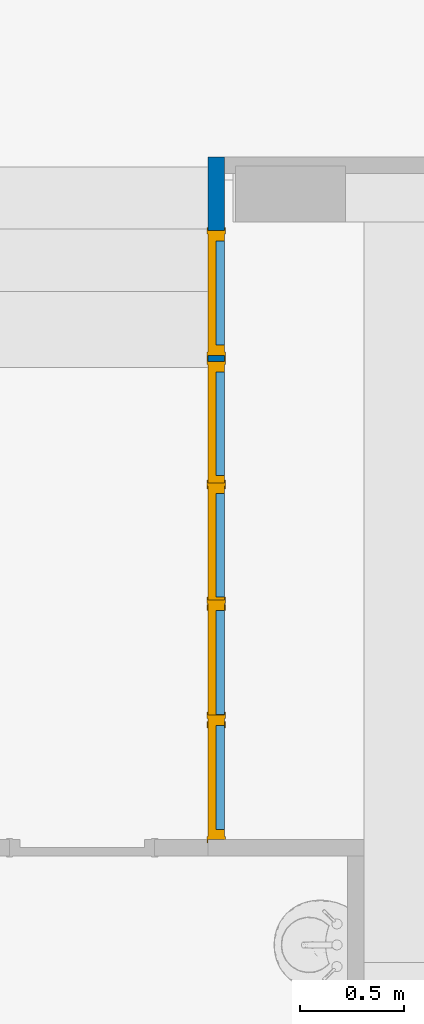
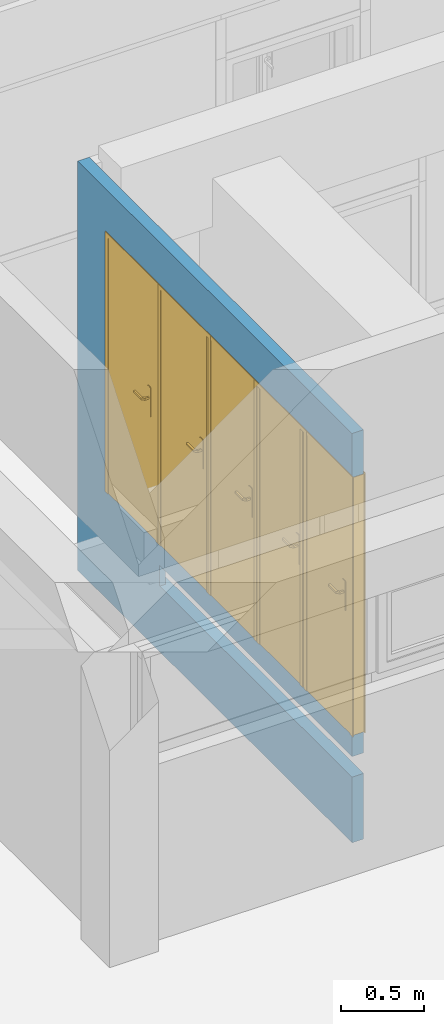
# One storey, part 29 of 49: 5 doors, 1 wall, 6 openings.
"""IFC4 building model written with IfcOpenShell, lengths in metres."""

from ifc_helpers import new_model, entity, si_unit, converted_unit, derived_unit, direction, frame, origin, place, context, subcontext, project, spatial, indexed_curve, outline, extrude, polygons, source, transform, mapped, material, material_list, layer, layer_set, constituent, constituent_set, type_object, type_shapes, element, fill, save


model = new_model("IFC4")

# Units and contexts
model_context = context("Model", 3, precision=1e-05, world=origin(), true_north=direction((6.12303176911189e-17, 1.0)))
body_context = subcontext(model_context, "Body", "Model", "MODEL_VIEW")
ifc_project = project(units=[si_unit("LENGTHUNIT", "METRE"), si_unit("AREAUNIT", "SQUARE_METRE"), si_unit("VOLUMEUNIT", "CUBIC_METRE"), converted_unit("PLANEANGLEUNIT", "DEGREE", entity("IfcRatioMeasure", 0.0174532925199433), si_unit("PLANEANGLEUNIT", "RADIAN"), dimensions=[0, 0, 0, 0, 0, 0, 0]), si_unit("MASSUNIT", "GRAM", prefix="KILO"), derived_unit("MASSDENSITYUNIT", [(si_unit("MASSUNIT", "GRAM", prefix="KILO"), 1), (si_unit("LENGTHUNIT", "METRE"), -3)]), derived_unit("MOMENTOFINERTIAUNIT", [(si_unit("LENGTHUNIT", "METRE"), 4)]), si_unit("TIMEUNIT", "SECOND"), si_unit("FREQUENCYUNIT", "HERTZ"), si_unit("THERMODYNAMICTEMPERATUREUNIT", "DEGREE_CELSIUS"), derived_unit("THERMALTRANSMITTANCEUNIT", [(si_unit("MASSUNIT", "GRAM", prefix="KILO"), 1), (si_unit("THERMODYNAMICTEMPERATUREUNIT", "KELVIN"), -1), (si_unit("TIMEUNIT", "SECOND"), -3)]), derived_unit("VOLUMETRICFLOWRATEUNIT", [(si_unit("LENGTHUNIT", "METRE"), 3), (si_unit("TIMEUNIT", "SECOND"), -1)]), si_unit("ELECTRICCURRENTUNIT", "AMPERE"), si_unit("ELECTRICVOLTAGEUNIT", "VOLT"), si_unit("POWERUNIT", "WATT"), si_unit("FORCEUNIT", "NEWTON", prefix="KILO"), si_unit("ILLUMINANCEUNIT", "LUX"), si_unit("LUMINOUSFLUXUNIT", "LUMEN"), si_unit("LUMINOUSINTENSITYUNIT", "CANDELA"), derived_unit("USERDEFINED", [(si_unit("MASSUNIT", "GRAM", prefix="KILO"), -1), (si_unit("LENGTHUNIT", "METRE"), -2), (si_unit("TIMEUNIT", "SECOND"), 3), (si_unit("LUMINOUSFLUXUNIT", "LUMEN"), 1)]), derived_unit("LINEARVELOCITYUNIT", [(si_unit("LENGTHUNIT", "METRE"), 1), (si_unit("TIMEUNIT", "SECOND"), -1)]), si_unit("PRESSUREUNIT", "PASCAL"), derived_unit("USERDEFINED", [(si_unit("LENGTHUNIT", "METRE"), -2), (si_unit("MASSUNIT", "GRAM", prefix="KILO"), 1), (si_unit("TIMEUNIT", "SECOND"), -2)]), derived_unit("LINEARFORCEUNIT", [(si_unit("MASSUNIT", "GRAM", prefix="KILO"), 1), (si_unit("LENGTHUNIT", "METRE"), 1), (si_unit("TIMEUNIT", "SECOND"), -2), (si_unit("LENGTHUNIT", "METRE"), -1)]), derived_unit("PLANARFORCEUNIT", [(si_unit("MASSUNIT", "GRAM", prefix="KILO"), 1), (si_unit("LENGTHUNIT", "METRE"), 1), (si_unit("TIMEUNIT", "SECOND"), -2), (si_unit("LENGTHUNIT", "METRE"), -2)])], contexts=[model_context])

# Site, building, storey
site_placement = place(None, origin())
site = spatial("IfcSite", under=ifc_project, at=site_placement, Name="Default", CompositionType="ELEMENT")
building_placement = place(site_placement, origin())
building = spatial("IfcBuilding", under=site, at=building_placement, Name="HOTEL CONSULAIRE BOULOGNE SUR MER", CompositionType="ELEMENT")
storey_placement = place(building_placement, frame((0.0, 0.0, 6.81974152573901)))
storey = spatial("IfcBuildingStorey", under=building, at=storey_placement, Name="Niveau 2", CompositionType="ELEMENT", Elevation=6.81974152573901)

# Wall, openings, doors
ifc_material_1 = material(Name="Mur par défaut", Category="Divers")
ifc_layer = layer(ifc_material_1, 0.08, Name="Mur par défaut", Category="Divers")
ifc_layer_set = layer_set([ifc_layer], Name="Mur de base:Générique - Int. 80")
wall_type = type_object("IfcWallType", Name="Mur de base:Générique - Int. 80", PredefinedType="NOTDEFINED", material=ifc_layer_set)
wall_placement = place(storey_placement, frame((13.8090496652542, -19.603155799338, -0.0349999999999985), z_axis=(0.0, 0.0, 1.0), x_axis=(0.0, -1.0, 0.0)))
wall = element("IfcWall", 1, at=wall_placement, inside=storey, type_object=wall_type, material=ifc_layer_set, Name="Mur de base:Générique - Int. 80", ObjectType="Mur de base:Générique - Int. 80", PredefinedType="NOTDEFINED", context=body_context, shape_type="Tessellation", body=[
    polygons([(3.28643781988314, 0.0399999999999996, 2.99200000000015), (3.28643781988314, -0.0399999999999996, 2.99200000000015), (3.28643781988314, -0.0399999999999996, 2.67000000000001), (3.28643781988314, 0.0399999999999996, 2.67000000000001), (3.28643781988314, 0.0399999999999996, 0.784999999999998), (3.28643781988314, -0.0399999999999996, 0.784999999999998), (3.28643781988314, -0.0399999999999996, 0.629999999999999), (3.28643781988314, 0.0399999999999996, 0.629999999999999), (0.0, -0.0399999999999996, -1.08286712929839e-15), (3.28643781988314, -0.0399999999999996, -1.08286712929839e-15), (3.28643781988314, -0.0399999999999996, 0.479999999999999), (0.98275400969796, -0.0400000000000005, 0.479999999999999), (0.98275400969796, -0.0400000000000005, 0.629999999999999), (0.984511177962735, -0.0400000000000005, 0.784999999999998), (0.984511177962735, -0.0400000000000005, 2.67000000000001), (0.0, -0.0399999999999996, 2.99200000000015), (0.354511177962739, -0.0399999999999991, 0.784999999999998), (0.354511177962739, -0.0399999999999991, 2.67000000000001), (0.954511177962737, -0.0400000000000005, 2.67000000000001), (0.954511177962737, -0.0400000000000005, 0.784999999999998), (3.28643781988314, 0.0399999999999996, -1.08286712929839e-15), (0.0799999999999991, 0.0399999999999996, -1.08286712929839e-15), (0.0, 0.0399999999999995, -1.08286712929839e-15), (0.0, 0.0399999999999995, 2.99200000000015), (0.984511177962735, 0.0399999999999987, 2.67000000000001), (0.984511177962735, 0.0399999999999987, 0.784999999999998), (0.110870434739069, 0.0399999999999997, 0.629999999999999), (0.110870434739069, 0.0399999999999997, 0.479999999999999), (3.28643781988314, 0.0399999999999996, 0.479999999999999), (0.354511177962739, 0.04, 2.67000000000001), (0.354511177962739, 0.04, 0.784999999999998), (0.954511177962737, 0.0399999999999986, 0.784999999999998), (0.954511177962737, 0.0399999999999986, 2.67000000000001), (0.110870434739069, 2.27262436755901e-15, 0.479999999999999), (0.98275400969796, 1.26101321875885e-15, 0.479999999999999), (0.98275400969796, 1.26101321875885e-15, 0.629999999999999), (0.110870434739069, 2.27262436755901e-15, 0.629999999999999)], [[[3, 4, 1, 2]], [[7, 8, 5, 6]], [[10, 21, 29, 11]], [[18, 17, 31, 30]], [[15, 14, 26, 25]], [[13, 12, 35, 36]], [[27, 37, 34, 28]], [[9, 10, 11, 12, 13, 7, 6, 14, 15, 3, 2, 16], [17, 18, 19, 20]], [[21, 22, 23, 24, 1, 4, 25, 26, 5, 8, 27, 28, 29], [30, 31, 32, 33]], [[37, 36, 35, 34]], [[10, 9, 23, 22, 21]], [[15, 25, 4, 3]], [[19, 18, 30, 33]], [[36, 37, 27, 8, 7, 13]], [[24, 23, 9, 16]], [[20, 19, 33, 32]], [[16, 2, 1, 24]], [[6, 5, 26, 14]], [[17, 20, 32, 31]], [[35, 12, 11, 29, 28, 34]]], closed=True),
])
opening_1_placement = place(storey_placement, frame((13.8090496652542, -19.603155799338, -0.0349999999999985), z_axis=(0.0, 0.0, 1.0), x_axis=(0.0, -1.0, 0.0)))
element("IfcOpeningElement", 2, at=opening_1_placement, cuts=wall, Name="Mur de base:Générique - Int. 80:1", ObjectType="Opening", PredefinedType="OPENING", context=body_context, shape_type="SweptSolid", body=[
    extrude(outline(indexed_curve([(-1.34915032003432, 1.18551716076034e-15), (-1.34915032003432, -0.0399999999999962), (1.82641706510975, -0.0399999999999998), (1.82641706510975, 0.0399999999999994), (-0.477266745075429, 0.0400000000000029), (-0.477266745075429, 1.18551716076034e-15), (-1.34915032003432, 1.18551716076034e-15)], self_intersect=False)), frame((1.46002075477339, 0.0, 0.479999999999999), z_axis=(0.0, 0.0, -1.0), x_axis=(1.0, 0.0, 0.0)), (0.0, 0.0, -1.0), 0.149999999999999),
])
opening_2_placement = place(wall_placement, frame((3.28843781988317, 0.0399999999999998, 0.784999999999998)))
opening_2 = element("IfcOpeningElement", 3, at=opening_2_placement, cuts=wall, Name="Int. Simple:0.53x1.85:1", ObjectType="Opening", PredefinedType="OPENING", context=body_context, shape_type="SweptSolid", body=[
    extrude(outline(indexed_curve([(0.0, 0.599999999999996), (0.0, 0.0), (1.88500000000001, 0.0), (1.88500000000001, 0.599999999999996), (0.0, 0.599999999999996)], self_intersect=False)), frame((0.0, 0.0, 0.0), z_axis=(0.0, -1.0, 0.0), x_axis=(0.0, 0.0, 1.0)), (0.0, 0.0, 1.0), 0.08),
])
opening_3_placement = place(wall_placement, frame((1.58451117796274, 0.0399999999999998, 0.784999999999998)))
opening_3 = element("IfcOpeningElement", 4, at=opening_3_placement, cuts=wall, Name="Int. Simple:0.53x1.85:1", ObjectType="Opening", PredefinedType="OPENING", context=body_context, shape_type="SweptSolid", body=[
    extrude(outline(indexed_curve([(0.0, 0.599999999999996), (0.0, 0.0), (1.88500000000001, 0.0), (1.88500000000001, 0.599999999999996), (0.0, 0.599999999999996)], self_intersect=False)), frame((0.0, 0.0, 0.0), z_axis=(0.0, -1.0, 0.0), x_axis=(0.0, 0.0, 1.0)), (0.0, 0.0, 1.0), 0.08),
])
opening_4_placement = place(wall_placement, frame((2.16951117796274, 0.0399999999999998, 0.784999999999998)))
opening_4 = element("IfcOpeningElement", 5, at=opening_4_placement, cuts=wall, Name="Int. Simple:0.53x1.85:1", ObjectType="Opening", PredefinedType="OPENING", context=body_context, shape_type="SweptSolid", body=[
    extrude(outline(indexed_curve([(0.0, 0.599999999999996), (0.0, -1.11984739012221e-32), (1.88500000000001, -1.11984739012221e-32), (1.88500000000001, 0.599999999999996), (0.0, 0.599999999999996)], self_intersect=False)), frame((0.0, 0.0, 0.0), z_axis=(0.0, -1.0, 0.0), x_axis=(0.0, 0.0, 1.0)), (0.0, 0.0, 1.0), 0.08),
])
opening_5_placement = place(wall_placement, frame((2.73451117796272, 0.0399999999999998, 0.784999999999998)))
opening_5 = element("IfcOpeningElement", 6, at=opening_5_placement, cuts=wall, Name="Int. Simple:0.53x1.85:1", ObjectType="Opening", PredefinedType="OPENING", context=body_context, shape_type="SweptSolid", body=[
    extrude(outline(indexed_curve([(0.0, 0.599999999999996), (0.0, 0.0), (1.88500000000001, 0.0), (1.88500000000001, 0.599999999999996), (0.0, 0.599999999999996)], self_intersect=False)), frame((0.0, 0.0, 0.0), z_axis=(0.0, -1.0, 0.0), x_axis=(0.0, 0.0, 1.0)), (0.0, 0.0, 1.0), 0.08),
])
opening_6_placement = place(wall_placement, frame((0.954511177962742, 0.0399999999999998, 0.784999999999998)))
opening_6 = element("IfcOpeningElement", 7, at=opening_6_placement, cuts=wall, Name="Int. Simple:0.53x1.85:1", ObjectType="Opening", PredefinedType="OPENING", context=body_context, shape_type="SweptSolid", body=[
    extrude(outline(indexed_curve([(0.0, 0.599999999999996), (0.0, 0.0), (1.88500000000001, 0.0), (1.88500000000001, 0.599999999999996), (0.0, 0.599999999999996)], self_intersect=False)), frame((0.0, 0.0, 0.0), z_axis=(0.0, -1.0, 0.0), x_axis=(0.0, 0.0, 1.0)), (0.0, 0.0, 1.0), 0.08),
])
ifc_material_2 = material(Name="Finition Peinture - Blanc satiné", Category="Peinture")
ifc_constituent_1 = constituent(ifc_material_2, Name="Finition Peinture - Blanc satiné", Category="Matériaux")
ifc_material_3 = material(Name="Bois - Panneau de porte", Category="Bois")
ifc_constituent_2 = constituent(ifc_material_3, Name="Bois - Panneau de porte", Category="Matériaux")
ifc_material_4 = material(Name="Bois - Cadre de porte", Category="Bois")
ifc_constituent_3 = constituent(ifc_material_4, Name="Bois - Cadre de porte", Category="Matériaux")
ifc_constituent_set_1 = constituent_set(constituents=[ifc_constituent_1, ifc_constituent_2, ifc_constituent_3], Name="MaterialConstituentSet")
ifc_material_list = material_list([ifc_material_4, ifc_material_4, ifc_material_3, ifc_material_2])
door_type = type_object("IfcDoorType", Name="Int. Simple:0.53x1.85", OperationType="NOTDEFINED", PredefinedType="DOOR", material=ifc_material_list)
shared_shape = source(origin(), body_context, "Body", "Tessellation", [
    polygons([(0.59500000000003, -0.00500000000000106, 0.870000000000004), (0.595000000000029, -0.00500000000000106, 1.08), (0.58535276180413, -0.00500000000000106, 1.08399601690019), (0.57500000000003, -0.00500000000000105, 1.08535898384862), (0.564647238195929, -0.00500000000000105, 1.08399601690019), (0.55500000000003, -0.00500000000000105, 1.08), (0.555000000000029, -0.00500000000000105, 0.870000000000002), (0.564647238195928, -0.00500000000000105, 0.866003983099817), (0.575000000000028, -0.00500000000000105, 0.86464101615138), (0.585352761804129, -0.00500000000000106, 0.866003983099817), (0.595000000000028, -1.06594733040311e-15, 0.870000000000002), (0.585352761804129, -1.06594733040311e-15, 0.866003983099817), (0.575000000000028, -1.05748743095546e-15, 0.86464101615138), (0.564647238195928, -1.05748743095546e-15, 0.866003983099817), (0.555000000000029, -1.04902753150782e-15, 0.870000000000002), (0.55500000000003, -1.04902753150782e-15, 1.08), (0.564647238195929, -1.05748743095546e-15, 1.08399601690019), (0.57500000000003, -1.05748743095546e-15, 1.08535898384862), (0.58535276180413, -1.06594733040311e-15, 1.08399601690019), (0.595000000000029, -1.06594733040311e-15, 1.08)], [[[1, 2, 3, 4, 5, 6, 7, 8, 9, 10]], [[20, 11, 12, 13, 14, 15, 16, 17, 18, 19]], [[10, 12, 11, 1]], [[9, 13, 12, 10]], [[8, 14, 13, 9]], [[8, 7, 15, 14]], [[15, 7, 6, 16]], [[5, 17, 16, 6]], [[4, 18, 17, 5]], [[3, 19, 18, 4]], [[3, 2, 20, 19]], [[11, 20, 2, 1]]], closed=True),
    polygons([(0.55500000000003, 0.0399999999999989, 1.08), (0.555000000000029, 0.0399999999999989, 0.870000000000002), (0.564647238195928, 0.0399999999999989, 0.866003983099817), (0.575000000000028, 0.0399999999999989, 0.86464101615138), (0.585352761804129, 0.0399999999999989, 0.866003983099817), (0.59500000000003, 0.0399999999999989, 0.870000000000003), (0.59500000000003, 0.0399999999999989, 1.08), (0.585352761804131, 0.0399999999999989, 1.08399601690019), (0.57500000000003, 0.0399999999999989, 1.08535898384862), (0.564647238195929, 0.0399999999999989, 1.08399601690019), (0.55500000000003, 0.0449999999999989, 1.08), (0.564647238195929, 0.0449999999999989, 1.08399601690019), (0.57500000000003, 0.0449999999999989, 1.08535898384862), (0.585352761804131, 0.0449999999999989, 1.08399601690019), (0.59500000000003, 0.0449999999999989, 1.08), (0.595000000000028, 0.0449999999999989, 0.870000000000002), (0.585352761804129, 0.0449999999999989, 0.866003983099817), (0.575000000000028, 0.0449999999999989, 0.86464101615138), (0.564647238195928, 0.0449999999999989, 0.866003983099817), (0.555000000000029, 0.0449999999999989, 0.870000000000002)], [[[6, 7, 8, 9, 10, 1, 2, 3, 4, 5]], [[13, 14, 15, 16, 17, 18, 19, 20, 11, 12]], [[10, 12, 11, 1]], [[9, 13, 12, 10]], [[8, 14, 13, 9]], [[8, 7, 15, 14]], [[16, 15, 7, 6]], [[5, 17, 16, 6]], [[4, 18, 17, 5]], [[3, 19, 18, 4]], [[3, 2, 20, 19]], [[20, 2, 1, 11]]], closed=True),
    polygons([(0.581000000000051, -0.00500000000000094, 1.00699999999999), (0.581000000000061, -0.00500000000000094, 0.992999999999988), (0.57702529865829, -0.00500000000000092, 0.99221955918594), (0.57297470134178, -0.0050000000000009, 0.992219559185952), (0.569000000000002, -0.00500000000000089, 0.993000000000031), (0.569000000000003, -0.00500000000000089, 1.007), (0.572974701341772, -0.0050000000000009, 1.00778044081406), (0.577025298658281, -0.00500000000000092, 1.00778044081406), (0.569000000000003, -0.0276803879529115, 1.007), (0.572974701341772, -0.0293267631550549, 1.00778044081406), (0.577025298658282, -0.0310045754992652, 1.00778044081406), (0.581000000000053, -0.0326509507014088, 1.007), (0.569000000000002, -0.0276803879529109, 0.993000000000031), (0.581000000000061, -0.0326509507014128, 0.992999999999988), (0.577025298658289, -0.0310045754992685, 0.99221955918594), (0.57297470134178, -0.0293267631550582, 0.992219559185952), (0.557652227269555, -0.0390281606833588, 1.007), (0.559298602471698, -0.0430028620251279, 1.00778044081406), (0.560976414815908, -0.0470534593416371, 1.00778044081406), (0.562622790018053, -0.0510281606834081, 1.007), (0.557652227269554, -0.0390281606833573, 0.993000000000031), (0.562622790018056, -0.0510281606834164, 0.992999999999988), (0.560976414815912, -0.047053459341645, 0.99221955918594), (0.559298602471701, -0.0430028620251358, 0.992219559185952), (0.474981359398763, -0.0510281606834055, 1.007), (0.474981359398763, -0.0470534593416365, 1.00778044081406), (0.474981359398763, -0.0430028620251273, 1.00778044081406), (0.474981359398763, -0.0390281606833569, 1.00699999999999), (0.474981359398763, -0.0390281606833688, 0.993000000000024), (0.474981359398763, -0.0430028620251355, 0.992219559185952), (0.474981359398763, -0.0470534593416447, 0.99221955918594), (0.474981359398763, -0.0510281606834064, 0.992999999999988), (0.522692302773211, -0.051028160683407, 1.007), (0.517139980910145, -0.045028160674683, 1.0078786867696), (0.516316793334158, -0.039028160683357, 1.007), (0.522692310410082, -0.0510281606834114, 0.992999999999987), (0.517139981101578, -0.0450281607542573, 0.992121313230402), (0.516316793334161, -0.039028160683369, 0.993000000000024)], [[[7, 8, 1, 2, 3, 4, 5, 6]], [[17, 21, 38, 29, 28, 35]], [[1, 8, 11, 12]], [[8, 7, 10, 18, 19, 11]], [[7, 6, 9, 10]], [[13, 9, 6, 5]], [[25, 26, 27, 28, 29, 30, 31, 32]], [[4, 16, 13, 5]], [[4, 3, 15, 23, 24, 16]], [[2, 14, 15, 3]], [[12, 14, 2, 1]], [[12, 11, 19, 20]], [[10, 9, 17, 18]], [[21, 17, 9, 13]], [[13, 16, 24, 21]], [[15, 14, 22, 23]], [[20, 22, 14, 12]], [[34, 26, 33]], [[33, 26, 25]], [[33, 20, 19]], [[18, 35, 34]], [[35, 18, 17]], [[28, 27, 35]], [[34, 27, 26]], [[34, 35, 27]], [[34, 33, 19]], [[18, 34, 19]], [[37, 30, 38]], [[31, 37, 36]], [[24, 38, 21]], [[30, 29, 38]], [[31, 36, 32]], [[36, 23, 22]], [[37, 23, 36]], [[37, 24, 23]], [[37, 38, 24]], [[30, 37, 31]], [[22, 20, 33, 25, 32, 36]]], closed=True),
    polygons([(0.569000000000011, 0.0449999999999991, 0.993000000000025), (0.572974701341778, 0.0449999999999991, 0.992219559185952), (0.577025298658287, 0.0449999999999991, 0.99221955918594), (0.581000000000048, 0.044999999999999, 0.992999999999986), (0.581000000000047, 0.044999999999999, 1.007), (0.577025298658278, 0.0449999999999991, 1.00778044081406), (0.572974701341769, 0.0449999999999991, 1.00778044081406), (0.568999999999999, 0.0449999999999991, 1.007), (0.568999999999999, 0.067485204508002, 1.007), (0.568999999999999, 0.0674852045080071, 0.993000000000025), (0.581000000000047, 0.0724557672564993, 1.007), (0.577025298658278, 0.070809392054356, 1.00778044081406), (0.572974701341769, 0.0691315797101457, 1.00778044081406), (0.581000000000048, 0.0724557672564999, 0.992999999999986), (0.572974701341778, 0.0691315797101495, 0.992219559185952), (0.577025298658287, 0.0708093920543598, 0.99221955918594), (0.55751471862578, 0.0789704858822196, 1.007), (0.557514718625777, 0.0789704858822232, 0.993000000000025), (0.562485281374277, 0.0909704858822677, 1.007), (0.560838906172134, 0.0869957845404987, 1.00778044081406), (0.559161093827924, 0.0829451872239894, 1.00778044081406), (0.562485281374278, 0.0909704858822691, 0.992999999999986), (0.559161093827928, 0.0829451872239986, 0.992219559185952), (0.560838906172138, 0.0869957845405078, 0.99221955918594), (0.474954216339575, 0.0789704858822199, 0.993000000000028), (0.474954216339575, 0.0789704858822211, 1.007), (0.474954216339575, 0.0829451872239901, 1.00778044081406), (0.474954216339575, 0.0869957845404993, 1.00778044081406), (0.474954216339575, 0.0909704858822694, 1.007), (0.474954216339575, 0.0909704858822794, 0.992999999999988), (0.474954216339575, 0.086995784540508, 0.99221955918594), (0.474954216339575, 0.0829451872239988, 0.992219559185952), (0.52255479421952, 0.0909704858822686, 1.007), (0.517057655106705, 0.0849704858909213, 1.0078786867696), (0.516234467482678, 0.0789704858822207, 1.007), (0.52255479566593, 0.0909704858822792, 0.992999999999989), (0.517057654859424, 0.0849704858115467, 0.992121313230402), (0.516234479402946, 0.0789704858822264, 0.993000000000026)], [[[2, 3, 4, 5, 6, 7, 8, 1]], [[18, 17, 35, 26, 25, 38]], [[9, 10, 1, 8]], [[27, 28, 29, 30, 31, 32, 25, 26]], [[7, 13, 9, 8]], [[7, 6, 12, 20, 21, 13]], [[5, 11, 12, 6]], [[11, 5, 4, 14]], [[4, 3, 16, 14]], [[3, 2, 15, 23, 24, 16]], [[2, 1, 10, 15]], [[17, 18, 10, 9]], [[9, 13, 21, 17]], [[11, 19, 20, 12]], [[22, 19, 11, 14]], [[14, 16, 24, 22]], [[15, 10, 18, 23]], [[34, 27, 35]], [[28, 34, 33]], [[21, 35, 17]], [[27, 26, 35]], [[28, 33, 29]], [[33, 20, 19]], [[34, 20, 33]], [[34, 21, 20]], [[34, 35, 21]], [[27, 34, 28]], [[19, 22, 36, 30, 29, 33]], [[37, 31, 36]], [[36, 31, 30]], [[36, 22, 24]], [[23, 38, 37]], [[38, 23, 18]], [[25, 32, 38]], [[37, 32, 31]], [[37, 38, 32]], [[37, 36, 24]], [[23, 37, 24]]], closed=True),
    polygons([(0.635000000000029, 0.0400000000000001, 1.85), (0.635000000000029, 0.0400000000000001, 0.0), (0.10500000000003, 0.0400000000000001, 0.0), (0.10500000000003, 0.0400000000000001, 1.85), (0.635000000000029, 6.76791955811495e-17, 1.85), (0.10500000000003, 6.76791955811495e-17, 1.85), (0.10500000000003, 6.76791955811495e-17, 0.0), (0.635000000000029, 6.76791955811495e-17, 0.0)], [[[4, 1, 2, 3]], [[5, 6, 7, 8]], [[5, 1, 4, 6]], [[6, 4, 3, 7]], [[7, 3, 2, 8]], [[8, 2, 1, 5]]], closed=True),
    polygons([(0.670000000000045, -8.45989944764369e-18, 0.0), (0.63500000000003, -8.45989944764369e-18, 0.0), (0.63500000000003, 0.0400000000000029, 0.0), (0.620000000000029, 0.0400000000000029, 0.0), (0.620000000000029, 0.080000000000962, 0.0), (0.670000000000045, 0.080000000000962, 0.0), (0.670000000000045, 0.080000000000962, 1.88500000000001), (0.670000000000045, -8.45989944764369e-18, 1.88500000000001), (0.620000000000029, 0.080000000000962, 1.835), (0.120000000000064, 0.080000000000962, 1.835), (0.120000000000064, 0.080000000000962, 4.03399441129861e-24), (0.0700000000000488, 0.080000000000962, 8.06798882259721e-24), (0.0700000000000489, 0.080000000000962, 1.88500000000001), (0.620000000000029, 0.0400000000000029, 1.835), (0.635000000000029, 0.0400000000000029, 1.85), (0.105000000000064, 0.0400000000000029, 1.85), (0.105000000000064, 0.0400000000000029, -8.79351111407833e-26), (0.120000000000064, 0.0400000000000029, -3.02274848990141e-24), (0.120000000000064, 0.0400000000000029, 1.835), (0.635000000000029, -8.45989944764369e-18, 1.85), (0.0700000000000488, -8.45989944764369e-18, 1.88500000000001), (0.0700000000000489, -8.45989944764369e-18, -2.7474762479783e-24), (0.105000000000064, -8.45989944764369e-18, -6.04008708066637e-24), (0.105000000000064, -8.45989944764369e-18, 1.85)], [[[5, 6, 1, 2, 3, 4]], [[17, 23, 22, 12, 11, 18]], [[10, 9, 14, 19]], [[24, 16, 15, 20]], [[8, 1, 6, 7]], [[18, 11, 10, 19]], [[17, 16, 24, 23]], [[9, 10, 11, 12, 13, 7, 6, 5]], [[14, 9, 5, 4]], [[15, 3, 2, 20]], [[22, 21, 13, 12]], [[19, 14, 4, 3, 15, 16, 17, 18]], [[24, 20, 2, 1, 8, 21, 22, 23]], [[21, 8, 7, 13]]], closed=True),
    polygons([(0.655000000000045, 0.080000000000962, 0.0), (0.655000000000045, 0.085000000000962, 0.0), (0.685000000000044, 0.085000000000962, 0.0), (0.685000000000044, 0.080000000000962, 0.0), (0.685000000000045, 0.080000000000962, 1.90000000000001), (0.0550000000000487, 0.080000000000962, 1.90000000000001), (0.0550000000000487, 0.080000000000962, -1.72577604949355e-25), (0.0850000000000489, 0.080000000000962, -9.70747622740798e-25), (0.085000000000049, 0.080000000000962, 1.87000000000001), (0.655000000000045, 0.080000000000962, 1.87000000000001), (0.685000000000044, 0.085000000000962, 1.90000000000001), (0.655000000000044, 0.085000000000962, 1.87000000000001), (0.085000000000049, 0.085000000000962, 1.87000000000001), (0.0850000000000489, 0.085000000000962, -8.49261679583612e-25), (0.0550000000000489, 0.085000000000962, 1.52867187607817e-24), (0.0550000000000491, 0.085000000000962, 1.90000000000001)], [[[2, 3, 4, 1]], [[8, 7, 15, 14]], [[13, 12, 10, 9]], [[9, 10, 1, 4, 5, 6, 7, 8]], [[5, 4, 3, 11]], [[14, 13, 9, 8]], [[12, 13, 14, 15, 16, 11, 3, 2]], [[10, 12, 2, 1]], [[7, 6, 16, 15]], [[6, 5, 11, 16]]], closed=True),
    polygons([(0.655000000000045, -0.00499999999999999, 0.0), (0.655000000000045, -8.45989944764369e-18, 0.0), (0.685000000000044, -8.45989944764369e-18, 0.0), (0.685000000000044, -0.00499999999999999, 0.0), (0.0850000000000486, -0.00499999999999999, -1.35358391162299e-16), (0.0550000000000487, -0.00499999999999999, -1.35358391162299e-16), (0.0550000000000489, -8.45989944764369e-18, -1.35358391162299e-16), (0.0850000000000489, -8.45989944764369e-18, -1.35358391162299e-16), (0.685000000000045, -0.00499999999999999, 1.90000000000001), (0.0550000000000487, -0.00499999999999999, 1.90000000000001), (0.085000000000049, -0.00499999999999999, 1.87000000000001), (0.655000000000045, -0.00499999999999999, 1.87000000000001), (0.685000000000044, -8.45989944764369e-18, 1.90000000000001), (0.655000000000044, -8.45989944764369e-18, 1.87000000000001), (0.085000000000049, -8.45989944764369e-18, 1.87000000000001), (0.0550000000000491, -8.45989944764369e-18, 1.90000000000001)], [[[2, 3, 4, 1]], [[5, 6, 7, 8]], [[15, 14, 12, 11]], [[11, 12, 1, 4, 9, 10, 6, 5]], [[9, 4, 3, 13]], [[5, 8, 15, 11]], [[14, 15, 8, 7, 16, 13, 3, 2]], [[12, 14, 2, 1]], [[6, 10, 16, 7]], [[10, 9, 13, 16]]], closed=True),
])
type_shapes(door_type, [shared_shape])
door_1_placement = place(opening_2_placement, frame((-0.670000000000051, -0.0800000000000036, 0.0)))
door_1 = element("IfcDoor", 8, at=door_1_placement, inside=storey, type_object=door_type, material=ifc_constituent_set_1, Name="Int. Simple:0.53x1.85", ObjectType="Int. Simple:0.53x1.85", OperationType="NOTDEFINED", OverallHeight=1.88500000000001, OverallWidth=0.599999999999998, PredefinedType="DOOR", context=body_context, shape_type="MappedRepresentation", body=[
    mapped(shared_shape, transform((0.0, 0.0, 0.0), scale=1.0)),
])
fill(opening_2, door_1)
ifc_constituent_4 = constituent(ifc_material_2, Name="Finition Peinture - Blanc satiné", Category="Matériaux")
ifc_constituent_5 = constituent(ifc_material_3, Name="Bois - Panneau de porte", Category="Matériaux")
ifc_constituent_6 = constituent(ifc_material_4, Name="Bois - Cadre de porte", Category="Matériaux")
ifc_constituent_set_2 = constituent_set(constituents=[ifc_constituent_4, ifc_constituent_5, ifc_constituent_6], Name="MaterialConstituentSet")
door_2_placement = place(opening_6_placement, frame((-0.670000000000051, -0.0799999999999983, 0.0)))
door_2 = element("IfcDoor", 9, at=door_2_placement, inside=storey, type_object=door_type, material=ifc_constituent_set_2, Name="Int. Simple:0.53x1.85", ObjectType="Int. Simple:0.53x1.85", OperationType="NOTDEFINED", OverallHeight=1.88500000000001, OverallWidth=0.599999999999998, PredefinedType="DOOR", context=body_context, shape_type="MappedRepresentation", body=[
    mapped(shared_shape, transform((0.0, 0.0, 0.0), scale=1.0)),
])
fill(opening_6, door_2)
ifc_constituent_7 = constituent(ifc_material_2, Name="Finition Peinture - Blanc satiné", Category="Matériaux")
ifc_constituent_8 = constituent(ifc_material_3, Name="Bois - Panneau de porte", Category="Matériaux")
ifc_constituent_9 = constituent(ifc_material_4, Name="Bois - Cadre de porte", Category="Matériaux")
ifc_constituent_set_3 = constituent_set(constituents=[ifc_constituent_7, ifc_constituent_8, ifc_constituent_9], Name="MaterialConstituentSet")
door_3_placement = place(opening_5_placement, frame((-0.670000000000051, -0.0800000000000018, 0.0)))
door_3 = element("IfcDoor", 10, at=door_3_placement, inside=storey, type_object=door_type, material=ifc_constituent_set_3, Name="Int. Simple:0.53x1.85", ObjectType="Int. Simple:0.53x1.85", OperationType="NOTDEFINED", OverallHeight=1.88500000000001, OverallWidth=0.599999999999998, PredefinedType="DOOR", context=body_context, shape_type="MappedRepresentation", body=[
    mapped(shared_shape, transform((0.0, 0.0, 0.0), scale=1.0)),
])
fill(opening_5, door_3)
ifc_constituent_10 = constituent(ifc_material_2, Name="Finition Peinture - Blanc satiné", Category="Matériaux")
ifc_constituent_11 = constituent(ifc_material_3, Name="Bois - Panneau de porte", Category="Matériaux")
ifc_constituent_12 = constituent(ifc_material_4, Name="Bois - Cadre de porte", Category="Matériaux")
ifc_constituent_set_4 = constituent_set(constituents=[ifc_constituent_10, ifc_constituent_11, ifc_constituent_12], Name="MaterialConstituentSet")
door_4_placement = place(opening_4_placement, frame((-0.670000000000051, -0.0800000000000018, 0.0)))
door_4 = element("IfcDoor", 11, at=door_4_placement, inside=storey, type_object=door_type, material=ifc_constituent_set_4, Name="Int. Simple:0.53x1.85", ObjectType="Int. Simple:0.53x1.85", OperationType="NOTDEFINED", OverallHeight=1.88500000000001, OverallWidth=0.599999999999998, PredefinedType="DOOR", context=body_context, shape_type="MappedRepresentation", body=[
    mapped(shared_shape, transform((0.0, 0.0, 0.0), scale=1.0)),
])
fill(opening_4, door_4)
ifc_constituent_13 = constituent(ifc_material_2, Name="Finition Peinture - Blanc satiné", Category="Matériaux")
ifc_constituent_14 = constituent(ifc_material_3, Name="Bois - Panneau de porte", Category="Matériaux")
ifc_constituent_15 = constituent(ifc_material_4, Name="Bois - Cadre de porte", Category="Matériaux")
ifc_constituent_set_5 = constituent_set(constituents=[ifc_constituent_13, ifc_constituent_14, ifc_constituent_15], Name="MaterialConstituentSet")
door_5_placement = place(opening_3_placement, frame((-0.670000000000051, -0.0800000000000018, 0.0)))
door_5 = element("IfcDoor", 12, at=door_5_placement, inside=storey, type_object=door_type, material=ifc_constituent_set_5, Name="Int. Simple:0.53x1.85", ObjectType="Int. Simple:0.53x1.85", OperationType="NOTDEFINED", OverallHeight=1.88500000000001, OverallWidth=0.599999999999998, PredefinedType="DOOR", context=body_context, shape_type="MappedRepresentation", body=[
    mapped(shared_shape, transform((0.0, 0.0, 0.0), scale=1.0)),
])
fill(opening_3, door_5)

save(model, "model.ifc")
